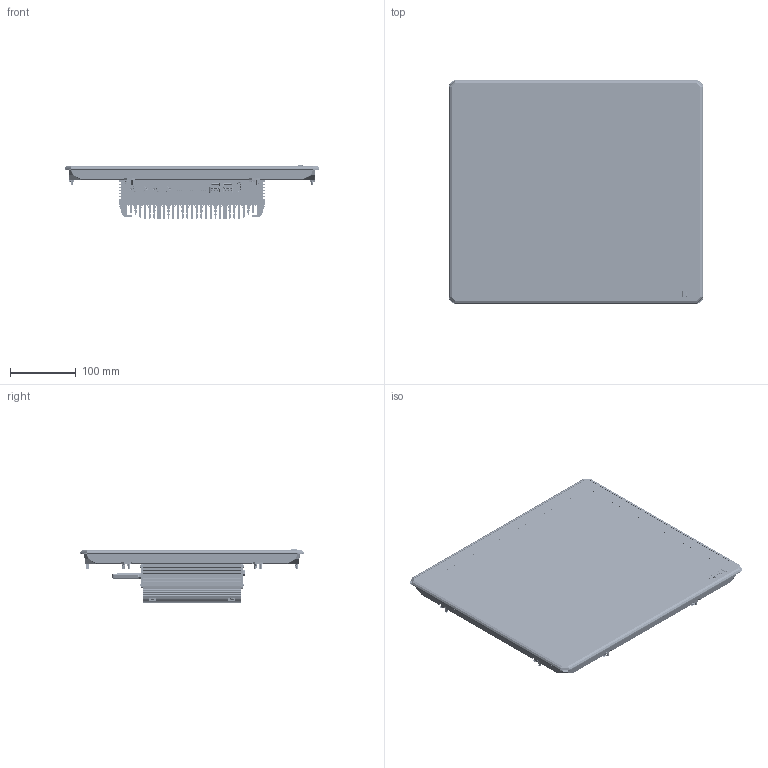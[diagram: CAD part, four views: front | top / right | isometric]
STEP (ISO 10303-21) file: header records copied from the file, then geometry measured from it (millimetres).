
FILE_DESCRIPTION (( 'STEP AP214' ), '1' );
FILE_NAME ('IDD22170.STEP', '2024-04-25T09:40:32', ( '' ), ( '' ), 'SwSTEP 2.0', 'SolidWorks 2018', '' );
FILE_SCHEMA (( 'AUTOMOTIVE_DESIGN' ));
Length unit declared in the file: millimetre
Products named in the file (1): IDD22170
Bounding box: 386.78 x 339.78 x 81.5 mm (x, y, z)
Topology: 0 solids, 917 shells, 14544 faces, 41474 edges, 28028 vertices
Faces by surface type: plane 7496, cylinder 4803, bspline 1386, torus 498, cone 250, sphere 111
Entity records: 805698 total; most frequent: CARTESIAN_POINT 295645, ORIENTED_EDGE 78587, DIRECTION 59136, EDGE_CURVE 41263, VERTEX_POINT 28029, LINE 20838, VECTOR 20838, AXIS2_PLACEMENT_3D 19149
